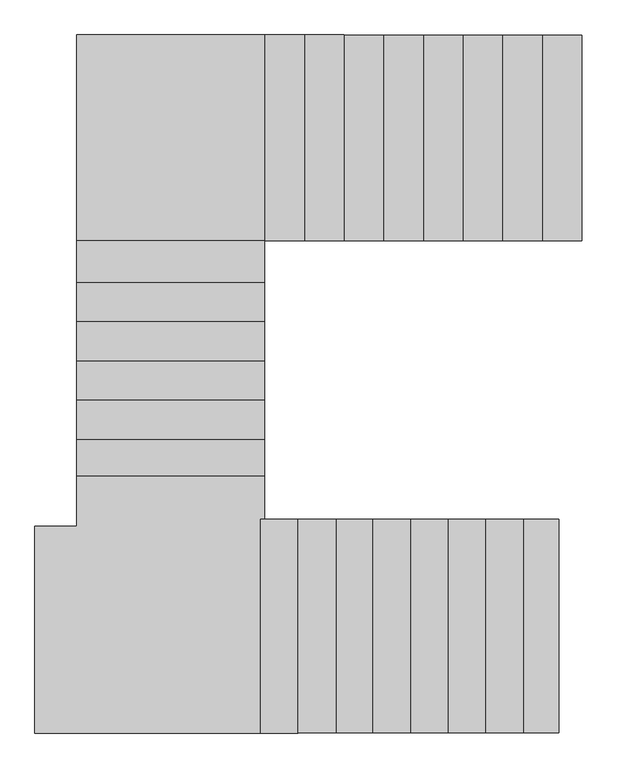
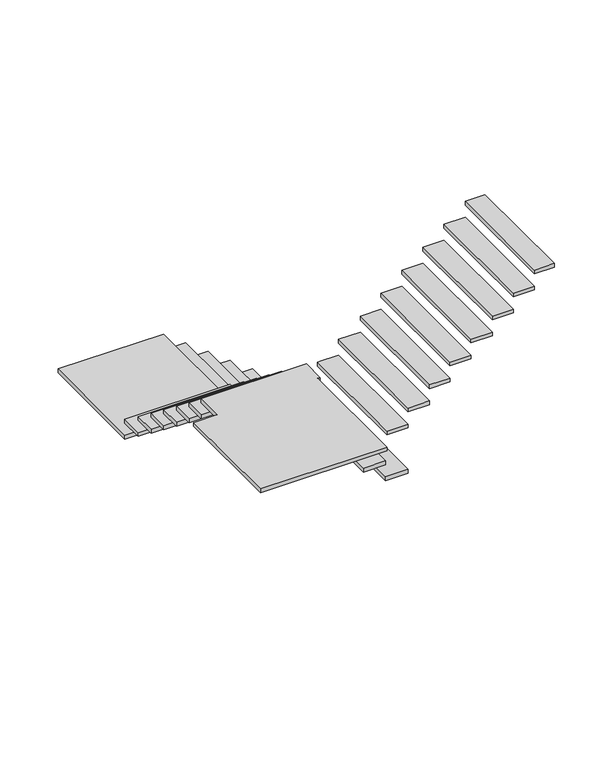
"""IFC4 building model written with IfcOpenShell, lengths in millimetres: stair flight geometry, Sin contrahuellas."""

from ifc_helpers import new_model, si_unit, frame, origin, place, context, project, spatial, polyline, outline, extrude, source, transform, mapped, element, save


def stair_flight_c2d89a96(model_context):
    return source(origin(), model_context, "Body", "SweptSolid", [
        extrude(outline(polyline([(9488.2897792, 4844.6072273), (9488.2897792, 6244.6250843), (9758.2897792, 6244.6250843), (9758.2897792, 4844.6072273), (9488.2897792, 4844.6072273)])), frame((0.0, 0.0, 155.6), z_axis=(0.0, 0.0, 1.0), x_axis=(1.0, 0.0, 0.0)), (0.0, 0.0, 1.0), 50.0),
        extrude(outline(polyline([(9218.2897792, 4844.6072273), (9218.2897792, 6244.6250843), (9488.2897792, 6244.6250843), (9488.2897792, 4844.6072273), (9218.2897792, 4844.6072273)])), frame((0.0, 0.0, 361.2), z_axis=(0.0, 0.0, 1.0), x_axis=(1.0, 0.0, 0.0)), (0.0, 0.0, 1.0), 50.0),
        extrude(outline(polyline([(8948.2897792, 4844.6072273), (8948.2897792, 6244.6250843), (9218.2897792, 6244.6250843), (9218.2897792, 4844.6072273), (8948.2897792, 4844.6072273)])), frame((0.0, 0.0, 566.8), z_axis=(0.0, 0.0, 1.0), x_axis=(1.0, 0.0, 0.0)), (0.0, 0.0, 1.0), 50.0),
        extrude(outline(polyline([(8678.2897792, 4844.6072273), (8678.2897792, 6244.6250843), (8948.2897792, 6244.6250843), (8948.2897792, 4844.6072273), (8678.2897792, 4844.6072273)])), frame((0.0, 0.0, 772.4), z_axis=(0.0, 0.0, 1.0), x_axis=(1.0, 0.0, 0.0)), (0.0, 0.0, 1.0), 50.0),
        extrude(outline(polyline([(8408.2897792, 4844.6072273), (8408.2897792, 6244.6250843), (8678.2897792, 6244.6250843), (8678.2897792, 4844.6072273), (8408.2897792, 4844.6072273)])), frame((0.0, 0.0, 978.0), z_axis=(0.0, 0.0, 1.0), x_axis=(1.0, 0.0, 0.0)), (0.0, 0.0, 1.0), 50.0),
        extrude(outline(polyline([(8138.2897792, 4844.6072273), (8138.2897792, 6244.6250843), (8408.2897792, 6244.6250843), (8408.2897792, 4844.6072273), (8138.2897792, 4844.6072273)])), frame((0.0, 0.0, 1183.6), z_axis=(0.0, 0.0, 1.0), x_axis=(1.0, 0.0, 0.0)), (0.0, 0.0, 1.0), 50.0),
        extrude(outline(polyline([(7868.2897792, 4844.6072273), (7868.2897792, 6244.6250843), (8138.2897792, 6244.6250843), (8138.2897792, 4844.6072273), (7868.2897792, 4844.6072273)])), frame((0.0, 0.0, 1389.2), z_axis=(0.0, 0.0, 1.0), x_axis=(1.0, 0.0, 0.0)), (0.0, 0.0, 1.0), 50.0),
        extrude(outline(polyline([(7599.0755337, 4844.6072273), (7599.0755337, 6244.6250843), (7868.2897792, 6244.6250843), (7868.2897792, 4844.6072273), (7599.0755337, 4844.6072273)])), frame((0.0, 0.0, 1594.8), z_axis=(0.0, 0.0, 1.0), x_axis=(1.0, 0.0, 0.0)), (0.0, 0.0, 1.0), 50.0),
        extrude(outline(polyline([(7599.0755337, 4844.6072273), (6318.2897792, 4844.6072273), (6318.2897792, 6244.6250843), (7599.0755337, 6244.6250843), (7599.0755337, 4844.6072273)])), frame((0.0, 0.0, 1800.4), z_axis=(0.0, 0.0, 1.0), x_axis=(1.0, 0.0, 0.0)), (0.0, 0.0, 1.0), 50.0),
        extrude(outline(polyline([(7824.4173304, 2951.7500845), (7824.4173304, 1496.342606), (7568.823684, 1496.342606), (7568.823684, 2951.7500845), (7599.0755337, 2951.7500845), (7824.4173304, 2951.7500845)])), frame((0.0, 0.0, 3445.2), z_axis=(0.0, 0.0, 1.0), x_axis=(1.0, 0.0, 0.0)), (0.0, 0.0, 1.0), 50.0),
        extrude(outline(polyline([(8087.8459447, 2951.7500845), (8087.8459447, 1496.342606), (7824.4173304, 1496.342606), (7824.4173304, 2951.7500845), (8087.8459447, 2951.7500845)])), frame((0.0, 0.0, 3650.8), z_axis=(0.0, 0.0, 1.0), x_axis=(1.0, 0.0, 0.0)), (0.0, 0.0, 1.0), 50.0),
        extrude(outline(polyline([(7599.0755337, 2951.7500845), (7568.823684, 2951.7500845), (7568.823684, 1496.342606), (6034.2897792, 1496.342606), (6034.2897792, 2901.7500845), (6318.2897792, 2901.7500845), (6318.2897792, 3241.7500845), (7599.0755337, 3241.7500845), (7599.0755337, 2951.7500845)])), frame((0.0, 0.0, 3239.6), z_axis=(0.0, 0.0, 1.0), x_axis=(1.0, 0.0, 0.0)), (0.0, 0.0, 1.0), 50.0),
        extrude(outline(polyline([(9602.2897792, 2951.7500845), (9602.2897792, 1496.342606), (9361.2897792, 1496.342606), (9361.2897792, 2951.7500845), (9602.2897792, 2951.7500845)])), frame((0.0, 0.0, 4884.4), z_axis=(0.0, 0.0, 1.0), x_axis=(1.0, 0.0, 0.0)), (0.0, 0.0, 1.0), 50.0),
        extrude(outline(polyline([(7599.0755337, 4560.321513), (6318.2897792, 4560.321513), (6318.2897792, 4844.6072273), (7599.0755337, 4844.6072273), (7599.0755337, 4560.321513)])), frame((0.0, 0.0, 2006.0), z_axis=(0.0, 0.0, 1.0), x_axis=(1.0, 0.0, 0.0)), (0.0, 0.0, 1.0), 50.0),
        extrude(outline(polyline([(7599.0755337, 4293.1786559), (6318.2897792, 4293.1786559), (6318.2897792, 4560.321513), (7599.0755337, 4560.321513), (7599.0755337, 4293.1786559)])), frame((0.0, 0.0, 2211.6), z_axis=(0.0, 0.0, 1.0), x_axis=(1.0, 0.0, 0.0)), (0.0, 0.0, 1.0), 50.0),
        extrude(outline(polyline([(7599.0755337, 4026.0357987), (6318.2897792, 4026.0357987), (6318.2897792, 4293.1786559), (7599.0755337, 4293.1786559), (7599.0755337, 4026.0357987)])), frame((0.0, 0.0, 2417.2), z_axis=(0.0, 0.0, 1.0), x_axis=(1.0, 0.0, 0.0)), (0.0, 0.0, 1.0), 50.0),
        extrude(outline(polyline([(7599.0755337, 3758.8929416), (6318.2897792, 3758.8929416), (6318.2897792, 4026.0357987), (7599.0755337, 4026.0357987), (7599.0755337, 3758.8929416)])), frame((0.0, 0.0, 2622.8), z_axis=(0.0, 0.0, 1.0), x_axis=(1.0, 0.0, 0.0)), (0.0, 0.0, 1.0), 50.0),
        extrude(outline(polyline([(7599.0755337, 3491.7500845), (6318.2897792, 3491.7500845), (6318.2897792, 3758.8929416), (7599.0755337, 3758.8929416), (7599.0755337, 3491.7500845)])), frame((0.0, 0.0, 2828.4), z_axis=(0.0, 0.0, 1.0), x_axis=(1.0, 0.0, 0.0)), (0.0, 0.0, 1.0), 50.0),
        extrude(outline(polyline([(8336.7081467, 2951.7500845), (8336.7081467, 1496.342606), (8087.8459447, 1496.342606), (8087.8459447, 2951.7500845), (8336.7081467, 2951.7500845)])), frame((0.0, 0.0, 3856.4), z_axis=(0.0, 0.0, 1.0), x_axis=(1.0, 0.0, 0.0)), (0.0, 0.0, 1.0), 50.0),
        extrude(outline(polyline([(8592.8535548, 2951.7500845), (8592.8535548, 1496.342606), (8336.7081467, 1496.342606), (8336.7081467, 2951.7500845), (8592.8535548, 2951.7500845)])), frame((0.0, 0.0, 4062.0), z_axis=(0.0, 0.0, 1.0), x_axis=(1.0, 0.0, 0.0)), (0.0, 0.0, 1.0), 50.0),
        extrude(outline(polyline([(8848.9989629, 2951.7500845), (8848.9989629, 1496.342606), (8592.8535548, 1496.342606), (8592.8535548, 2951.7500845), (8848.9989629, 2951.7500845)])), frame((0.0, 0.0, 4267.6), z_axis=(0.0, 0.0, 1.0), x_axis=(1.0, 0.0, 0.0)), (0.0, 0.0, 1.0), 50.0),
        extrude(outline(polyline([(9105.1443711, 2951.7500845), (9105.1443711, 1496.342606), (8848.9989629, 1496.342606), (8848.9989629, 2951.7500845), (9105.1443711, 2951.7500845)])), frame((0.0, 0.0, 4473.2), z_axis=(0.0, 0.0, 1.0), x_axis=(1.0, 0.0, 0.0)), (0.0, 0.0, 1.0), 50.0),
        extrude(outline(polyline([(9361.2897792, 2951.7500845), (9361.2897792, 1496.342606), (9105.1443711, 1496.342606), (9105.1443711, 2951.7500845), (9361.2897792, 2951.7500845)])), frame((0.0, 0.0, 4678.8), z_axis=(0.0, 0.0, 1.0), x_axis=(1.0, 0.0, 0.0)), (0.0, 0.0, 1.0), 50.0),
        extrude(outline(polyline([(7599.0755337, 3241.7500845), (6318.2897792, 3241.7500845), (6318.2897792, 3491.7500845), (7599.0755337, 3491.7500845), (7599.0755337, 3241.7500845)])), frame((0.0, 0.0, 3034.0), z_axis=(0.0, 0.0, 1.0), x_axis=(1.0, 0.0, 0.0)), (0.0, 0.0, 1.0), 50.0),
    ])


if __name__ == "__main__":
    model = new_model("IFC4")
    model_context = context("Model", 3, world=origin())
    ifc_project = project(units=[si_unit("LENGTHUNIT", "METRE", prefix="MILLI")], contexts=[model_context])
    site = spatial("IfcSite", under=ifc_project)
    building = spatial("IfcBuilding", under=site)
    placement = place(None, origin())
    stair_flight_shape = stair_flight_c2d89a96(model_context)
    element("IfcStairFlight", 1, ObjectType="Sin contrahuellas", at=placement, inside=building, context=model_context, shape_type="MappedRepresentation", body=[
        mapped(stair_flight_shape, transform((0.0, 0.0, 0.0), x_axis=(1.0, 0.0, 0.0), y_axis=(0.0, 1.0, 0.0), z_axis=(0.0, 0.0, 1.0))),
    ])
    save(model, "model.ifc")
